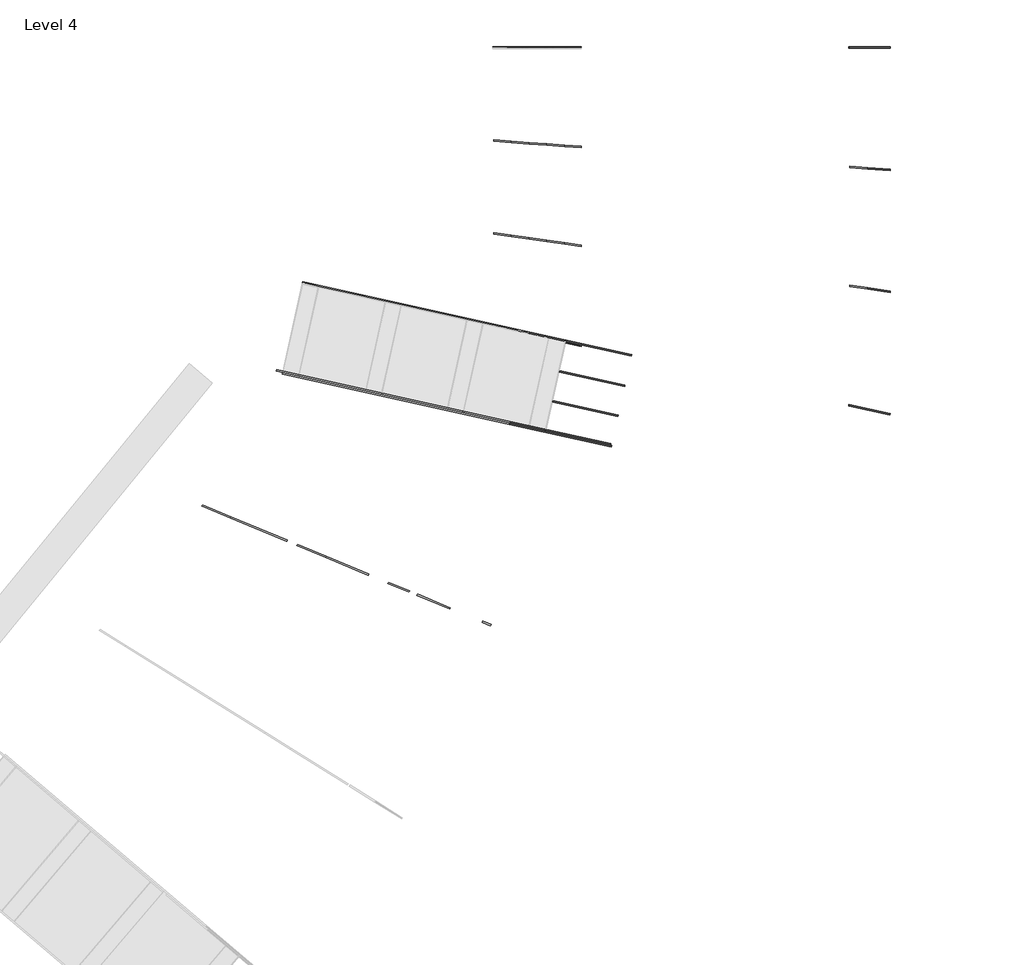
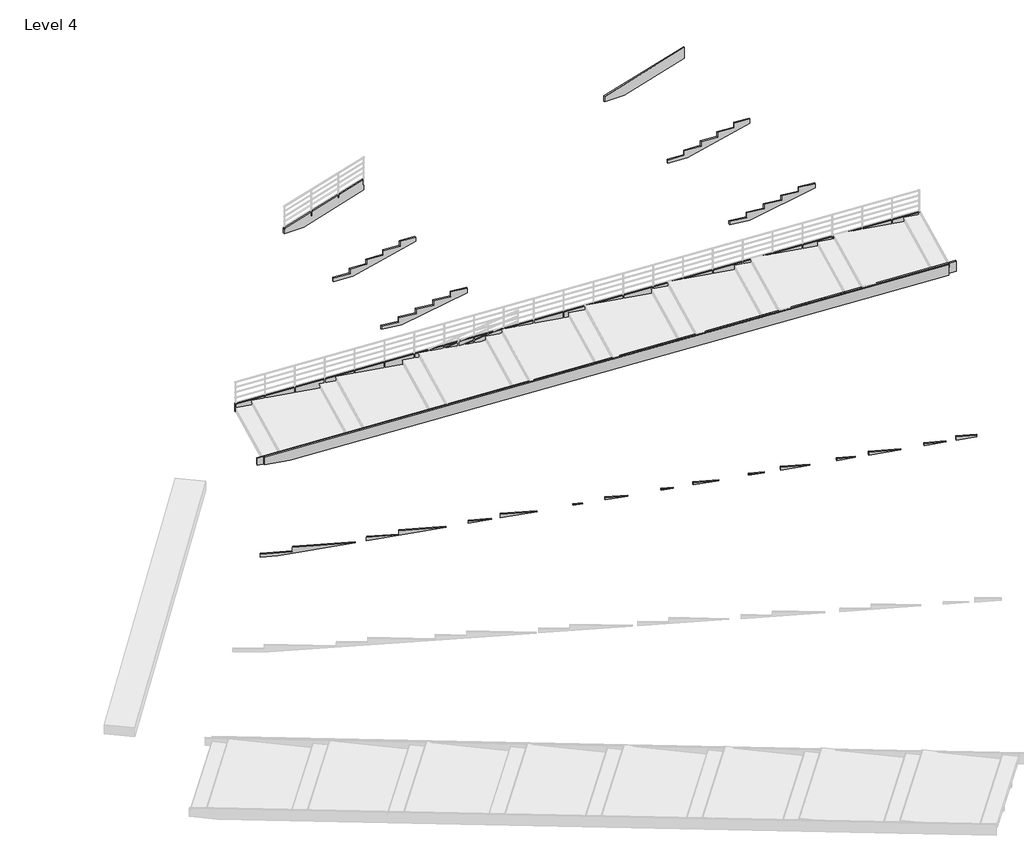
# One storey, part 2 of 2: 15 members.
"""IFC4 building model written with IfcOpenShell, lengths in millimetres."""

from ifc_helpers import new_model, si_unit, frame, origin, place, context, project, spatial, polyline, outline, extrude, faceted_brep, element, save

model = new_model("IFC4")

# Units and contexts
model_context = context("Model", 3, world=origin())
ifc_project = project(units=[si_unit("LENGTHUNIT", "METRE", prefix="MILLI")], contexts=[model_context])

# Site, building, storey
site = spatial("IfcSite", under=ifc_project)
building = spatial("IfcBuilding", under=site)
storey = spatial("IfcBuildingStorey", under=building, Name="Level 4", Elevation=3000.0)

# Members
placement = place(None, origin())
element("IfcMember", 1, ObjectType="Stringer - Miscellaneous - 50 mm Width", at=placement, inside=storey, context=model_context, shape_type="SweptSolid", body=[
    extrude(outline(polyline([(3199.3545501, 877319.9617053), (3000.0, 877319.9617053), (3000.0, 878038.0330119), (3677.6677256, 880262.0155652), (4095.8251383, 880262.0155652), (3199.3545501, 877319.9617053)])), frame((0.0, 83137.2219152, 0.0), z_axis=(0.0, 1.0, 0.0), x_axis=(0.0, 0.0, 1.0)), (0.0, 0.0, 1.0), 50.0),
])
element("IfcMember", 2, ObjectType="Stringer - Miscellaneous - 50 mm Width", at=placement, inside=storey, context=model_context, shape_type="SweptSolid", body=[
    extrude(outline(polyline([(118.9943577, -400.0), (62.2314549, -209.1912796), (765.4287617, 0.0), (3144.0066579, 0.0), (3263.0010156, -400.0), (118.9943577, -400.0)])), frame((877309.1394397, 73873.0759062, 2781.7484354), z_axis=(0.2164453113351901, 0.976294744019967, 0.0), x_axis=(0.9357657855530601, -0.20746000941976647, 0.2851363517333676)), (0.0, 0.0, 1.0), 50.0),
])
element("IfcMember", 3, ObjectType="Carriage - Miscellaneous - 50 mm Width", at=placement, inside=storey, context=model_context, shape_type="Brep", body=[
    faceted_brep([(877352.4617053, 77014.1358043, 3000.0), (878040.8652591, 76912.3893986, 3000.0), (878033.5546517, 76862.9267358, 3000.0), (877352.4617053, 76963.5926298, 3000.0), (880258.3602615, 76534.099302, 3677.9185184), (880265.670869, 76583.5619649, 3677.9185184), (880265.670869, 76583.5619649, 3846.4705882), (880258.3602615, 76534.099302, 3846.4705882), (877352.4617053, 77014.1358043, 3129.2941176), (877940.8724773, 76927.1683841, 3129.2941176), (877940.8724773, 76927.1683841, 3308.5882353), (878529.2832493, 76840.200964, 3308.5882353), (878529.2832493, 76840.200964, 3487.8823529), (879117.6940212, 76753.2335439, 3487.8823529), (879117.6940212, 76753.2335439, 3667.1764706), (879706.1047932, 76666.2661238, 3667.1764706), (879706.1047932, 76666.2661238, 3846.4705882), (879706.1047932, 76615.7229493, 3846.4705882), (879706.1047932, 76615.7229493, 3667.1764706), (879117.6940212, 76702.6903694, 3667.1764706), (879117.6940212, 76702.6903694, 3487.8823529), (878529.2832493, 76789.6577895, 3487.8823529), (878529.2832493, 76789.6577895, 3308.5882353), (877940.8724773, 76876.6252097, 3308.5882353), (877940.8724773, 76876.6252097, 3129.2941176), (877352.4617053, 76963.5926298, 3129.2941176)], [[[0, 1, 2, 3]], [[4, 5, 6, 7]], [[5, 4, 2, 1]], [[6, 5, 1, 0, 8, 9, 10, 11, 12, 13, 14, 15, 16]], [[16, 17, 7, 6]], [[4, 7, 17, 18, 19, 20, 21, 22, 23, 24, 25, 3, 2]], [[25, 8, 0, 3]], [[8, 25, 24, 9]], [[9, 24, 23, 10]], [[10, 23, 22, 11]], [[11, 22, 21, 12]], [[12, 21, 20, 13]], [[13, 20, 19, 14]], [[14, 19, 18, 15]], [[15, 18, 17, 16]]]),
])
element("IfcMember", 4, ObjectType="Carriage - Miscellaneous - 50 mm Width", at=placement, inside=storey, context=model_context, shape_type="Brep", body=[
    faceted_brep([(877352.4617053, 80088.1112388, 3000.0), (878039.6667746, 80037.3266043, 3000.0), (878035.9818101, 79987.4625788, 3000.0), (877352.4617053, 80037.9748934, 3000.0), (880260.173083, 79823.0942616, 3677.7313243), (880263.8580475, 79872.9582871, 3677.7313243), (880263.8580475, 79872.9582871, 3846.4705882), (880260.173083, 79823.0942616, 3846.4705882), (877352.4617053, 80088.1112388, 3129.2941176), (877940.8724773, 80044.6275287, 3129.2941176), (877940.8724773, 80044.6275287, 3308.5882353), (878529.2832493, 80001.1438187, 3308.5882353), (878529.2832493, 80001.1438187, 3487.8823529), (879117.6940212, 79957.6601086, 3487.8823529), (879117.6940212, 79957.6601086, 3667.1764706), (879706.1047932, 79914.1763985, 3667.1764706), (879706.1047932, 79914.1763985, 3846.4705882), (879706.1047932, 79864.0400532, 3846.4705882), (879706.1047932, 79864.0400532, 3667.1764706), (879117.6940212, 79907.5237633, 3667.1764706), (879117.6940212, 79907.5237633, 3487.8823529), (878529.2832493, 79951.0074733, 3487.8823529), (878529.2832493, 79951.0074733, 3308.5882353), (877940.8724773, 79994.4911834, 3308.5882353), (877940.8724773, 79994.4911834, 3129.2941176), (877352.4617053, 80037.9748934, 3129.2941176)], [[[0, 1, 2, 3]], [[4, 5, 6, 7]], [[5, 4, 2, 1]], [[6, 5, 1, 0, 8, 9, 10, 11, 12, 13, 14, 15, 16]], [[16, 17, 7, 6]], [[4, 7, 17, 18, 19, 20, 21, 22, 23, 24, 25, 3, 2]], [[25, 8, 0, 3]], [[8, 25, 24, 9]], [[9, 24, 23, 10]], [[10, 23, 22, 11]], [[11, 22, 21, 12]], [[12, 21, 20, 13]], [[13, 20, 19, 14]], [[14, 19, 18, 15]], [[15, 18, 17, 16]]]),
])
element("IfcMember", 5, ObjectType="Stringer - Miscellaneous - 50 mm Width", at=placement, inside=storey, context=model_context, shape_type="SweptSolid", body=[
    extrude(outline(polyline([(4199.3545501, 889144.9961928), (4000.0, 889144.9961928), (4000.0, 889863.0674994), (4677.6677256, 892087.0500527), (5095.8251383, 892087.0500527), (4199.3545501, 889144.9961928)])), frame((0.0, 83137.2219152, 0.0), z_axis=(0.0, 1.0, 0.0), x_axis=(0.0, 0.0, 1.0)), (0.0, 0.0, 1.0), 50.0),
])
element("IfcMember", 6, ObjectType="Stringer - Miscellaneous - 50 mm Width", at=placement, inside=storey, context=model_context, shape_type="SweptSolid", body=[
    extrude(outline(polyline([(118.9943577, -400.0), (62.2314549, -209.1912796), (765.4287617, 0.0), (3144.0066578, 0.0), (3263.0010155, -400.0), (118.9943577, -400.0)])), frame((889134.1739272, 71251.4564754, 3781.7484354), z_axis=(0.21644531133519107, 0.9762947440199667, 0.0), x_axis=(0.935765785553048, -0.20746000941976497, 0.28513635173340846)), (0.0, 0.0, 1.0), 50.0),
])
element("IfcMember", 7, ObjectType="Carriage - Miscellaneous - 50 mm Width", at=placement, inside=storey, context=model_context, shape_type="Brep", body=[
    faceted_brep([(889177.4961928, 75266.389517, 4000.0), (889865.8997466, 75164.6431114, 4000.0), (889858.5891391, 75115.1804485, 4000.0), (889177.4961928, 75215.8463425, 4000.0), (892083.394749, 74786.3530148, 4677.9185184), (892090.7053564, 74835.8156776, 4677.9185184), (892090.7053564, 74835.8156776, 4846.4705882), (892083.394749, 74786.3530148, 4846.4705882), (889177.4961928, 75266.389517, 4129.2941176), (889765.9069648, 75179.4220969, 4129.2941176), (889765.9069648, 75179.4220969, 4308.5882353), (890354.3177367, 75092.4546768, 4308.5882353), (890354.3177367, 75092.4546768, 4487.8823529), (890942.7285087, 75005.4872567, 4487.8823529), (890942.7285087, 75005.4872567, 4667.1764706), (891531.1392807, 74918.5198365, 4667.1764706), (891531.1392807, 74918.5198365, 4846.4705882), (891531.1392807, 74867.9766621, 4846.4705882), (891531.1392807, 74867.9766621, 4667.1764706), (890942.7285087, 74954.9440822, 4667.1764706), (890942.7285087, 74954.9440822, 4487.8823529), (890354.3177367, 75041.9115023, 4487.8823529), (890354.3177367, 75041.9115023, 4308.5882353), (889765.9069648, 75128.8789224, 4308.5882353), (889765.9069648, 75128.8789224, 4129.2941176), (889177.4961928, 75215.8463425, 4129.2941176)], [[[0, 1, 2, 3]], [[4, 5, 6, 7]], [[5, 4, 2, 1]], [[6, 5, 1, 0, 8, 9, 10, 11, 12, 13, 14, 15, 16]], [[16, 17, 7, 6]], [[4, 7, 17, 18, 19, 20, 21, 22, 23, 24, 25, 3, 2]], [[25, 8, 0, 3]], [[8, 25, 24, 9]], [[9, 24, 23, 10]], [[10, 23, 22, 11]], [[11, 22, 21, 12]], [[12, 21, 20, 13]], [[13, 20, 19, 14]], [[14, 19, 18, 15]], [[15, 18, 17, 16]]]),
])
element("IfcMember", 8, ObjectType="Carriage - Miscellaneous - 50 mm Width", at=placement, inside=storey, context=model_context, shape_type="Brep", body=[
    faceted_brep([(889177.4961928, 79214.2380951, 4000.0), (889864.7012621, 79163.4534606, 4000.0), (889861.0162976, 79113.5894352, 4000.0), (889177.4961928, 79164.1017498, 4000.0), (892085.2075704, 78949.221118, 4677.7313243), (892088.892535, 78999.0851434, 4677.7313243), (892088.892535, 78999.0851434, 4846.4705882), (892085.2075704, 78949.221118, 4846.4705882), (889177.4961928, 79214.2380951, 4129.2941176), (889765.9069648, 79170.7543851, 4129.2941176), (889765.9069648, 79170.7543851, 4308.5882353), (890354.3177367, 79127.270675, 4308.5882353), (890354.3177367, 79127.270675, 4487.8823529), (890942.7285087, 79083.786965, 4487.8823529), (890942.7285087, 79083.786965, 4667.1764706), (891531.1392807, 79040.3032549, 4667.1764706), (891531.1392807, 79040.3032549, 4846.4705882), (891531.1392807, 78990.1669096, 4846.4705882), (891531.1392807, 78990.1669096, 4667.1764706), (890942.7285087, 79033.6506196, 4667.1764706), (890942.7285087, 79033.6506196, 4487.8823529), (890354.3177367, 79077.1343297, 4487.8823529), (890354.3177367, 79077.1343297, 4308.5882353), (889765.9069648, 79120.6180398, 4308.5882353), (889765.9069648, 79120.6180398, 4129.2941176), (889177.4961928, 79164.1017498, 4129.2941176)], [[[0, 1, 2, 3]], [[4, 5, 6, 7]], [[5, 4, 2, 1]], [[6, 5, 1, 0, 8, 9, 10, 11, 12, 13, 14, 15, 16]], [[16, 17, 7, 6]], [[4, 7, 17, 18, 19, 20, 21, 22, 23, 24, 25, 3, 2]], [[25, 8, 0, 3]], [[8, 25, 24, 9]], [[9, 24, 23, 10]], [[10, 23, 22, 11]], [[11, 22, 21, 12]], [[12, 21, 20, 13]], [[13, 20, 19, 14]], [[14, 19, 18, 15]], [[15, 18, 17, 16]]]),
])
element("IfcMember", 9, ObjectType="Stringer - Miscellaneous - 50 mm Width", at=placement, inside=storey, context=model_context, shape_type="SweptSolid", body=[
    extrude(outline(polyline([(46.5162861, -400.0), (11.5737468, -99.5242546), (867.3966242, 0.0), (23075.0289311, 0.0), (23121.5452172, -400.0), (46.5162861, -400.0)])), frame((871001.9100742, 75322.607651, 2899.8050457), z_axis=(0.21644531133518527, 0.976294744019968, 0.0), x_axis=(0.9697594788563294, -0.2149964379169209, 0.11551227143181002)), (0.0, 0.0, 1.0), 50.0),
])
element("IfcMember", 10, ObjectType="Stringer - Miscellaneous - 50 mm Width", at=placement, inside=storey, context=model_context, shape_type="SweptSolid", body=[
    extrude(outline(polyline([(46.5162861, -400.0), (11.5737468, -99.5242546), (867.3966241, 0.0), (23075.028931, 0.0), (23121.5452171, -400.0), (46.5162861, -400.0)])), frame((870336.0002003, 72308.0961103, 2899.8050457), z_axis=(0.21644531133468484, 0.976294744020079, 0.0), x_axis=(0.9697594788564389, -0.21499643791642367, 0.11551227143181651)), (0.0, 0.0, 1.0), 50.0),
])
element("IfcMember", 11, ObjectType="Carriage - Miscellaneous - 50 mm Width", at=placement, inside=storey, context=model_context, shape_type="Brep", body=[
    faceted_brep([(870602.3068177, 73362.853534, 3000.0), (871411.7622329, 73183.3966328, 3000.0), (871400.9399674, 73134.5818956, 3000.0), (870591.5223637, 73314.0304139, 3000.0), (892937.0018999, 68360.0200551, 5565.2540509), (892947.8241655, 68408.8347923, 5565.2540509), (892947.8241655, 68408.8347923, 5828.6666667), (892937.0018999, 68360.0200551, 5828.6666667), (870602.3068177, 73362.853534, 3119.3333333), (871128.8974577, 73246.1079756, 3119.3333333), (871128.8974577, 73246.1079756, 3288.6666667), (873351.5253076, 72753.3496361, 3288.6666667), (873351.5253076, 72753.3496361, 3458.0), (873878.1159476, 72636.6040777, 3458.0), (873878.1159476, 72636.6040777, 3627.3333333), (876064.616157, 72151.8552645, 3627.3333333), (876064.616157, 72151.8552645, 3796.6666667), (876591.2067969, 72035.1097061, 3796.6666667), (876591.2067969, 72035.1097061, 3966.0), (878777.8085145, 71550.3383884, 3966.0), (878777.8085145, 71550.3383884, 4135.3333333), (879304.3991545, 71433.59283, 4135.3333333), (879304.3991545, 71433.59283, 4304.6666667), (881490.8832493, 70948.8475894, 4304.6666667), (881490.8832493, 70948.8475894, 4474.0), (882017.4738893, 70832.102031, 4474.0), (882017.4738893, 70832.102031, 4643.3333333), (884203.9579841, 70347.3567904, 4643.3333333), (884203.9579841, 70347.3567904, 4812.6666667), (884730.5486241, 70230.611232, 4812.6666667), (884730.5486241, 70230.611232, 4982.0), (886917.032719, 69745.8659914, 4982.0), (886917.032719, 69745.8659914, 5151.3333333), (887443.623359, 69629.120433, 5151.3333333), (887443.623359, 69629.120433, 5312.3203644), (887513.6930201, 69613.5859341, 5320.6666667), (889630.27342, 69144.3383975, 5320.6666667), (889630.27342, 69144.3383975, 5490.0), (890156.86406, 69027.5928391, 5490.0), (890156.86406, 69027.5928391, 5635.506271), (890356.8992535, 68983.2448797, 5659.3333333), (892452.9442084, 68518.5500673, 5659.3333333), (892452.9442084, 68518.5500673, 5828.6666667), (892442.1597544, 68469.7269473, 5828.6666667), (892442.1597544, 68469.7269473, 5659.3333333), (890346.0769879, 68934.4301425, 5659.3333333), (890146.0796059, 68978.7697191, 5635.5107749), (890146.0796059, 68978.7697191, 5490.0), (889619.488966, 69095.5152775, 5490.0), (889619.488966, 69095.5152775, 5320.6666667), (887502.8707545, 69564.7711969, 5320.6666667), (887432.8389049, 69580.2973129, 5312.3248683), (887432.8389049, 69580.2973129, 5151.3333333), (886906.2482649, 69697.0428713, 5151.3333333), (886906.2482649, 69697.0428713, 4982.0), (884719.7641701, 70181.788112, 4982.0), (884719.7641701, 70181.788112, 4812.6666667), (884193.1735301, 70298.5336703, 4812.6666667), (884193.1735301, 70298.5336703, 4643.3333333), (882006.6894352, 70783.278911, 4643.3333333), (882006.6894352, 70783.278911, 4474.0), (881480.0987952, 70900.0244693, 4474.0), (881480.0987952, 70900.0244693, 4304.6666667), (879293.6147004, 71384.76971, 4304.6666667), (879293.6147004, 71384.76971, 4135.3333333), (878767.0240604, 71501.5152684, 4135.3333333), (878767.0240604, 71501.5152684, 3966.0), (876580.4223429, 71986.2865861, 3966.0), (876580.4223429, 71986.2865861, 3796.6666667), (876053.8317029, 72103.0321444, 3796.6666667), (876053.8317029, 72103.0321444, 3627.3333333), (873867.3314935, 72587.7809577, 3627.3333333), (873867.3314935, 72587.7809577, 3458.0), (873340.7408536, 72704.526516, 3458.0), (873340.7408535, 72704.526516, 3288.6666667), (871118.1130036, 73197.2848556, 3288.6666667), (871118.1130036, 73197.2848556, 3119.3333333), (870591.5223637, 73314.0304139, 3119.3333333)], [[[0, 1, 2, 3]], [[4, 5, 6, 7]], [[5, 4, 2, 1]], [[6, 5, 1, 0, 8, 9, 10, 11, 12, 13, 14, 15, 16, 17, 18, 19, 20, 21, 22, 23, 24, 25, 26, 27, 28, 29, 30, 31, 32, 33, 34, 35, 36, 37, 38, 39, 40, 41, 42]], [[42, 43, 7, 6]], [[4, 7, 43, 44, 45, 46, 47, 48, 49, 50, 51, 52, 53, 54, 55, 56, 57, 58, 59, 60, 61, 62, 63, 64, 65, 66, 67, 68, 69, 70, 71, 72, 73, 74, 75, 76, 77, 3, 2]], [[51, 50, 35, 34]], [[46, 45, 40, 39]], [[49, 36, 35, 50]], [[33, 52, 51, 34]], [[44, 41, 40, 45]], [[38, 47, 46, 39]], [[77, 8, 0, 3]], [[8, 77, 76, 9]], [[9, 76, 75, 10]], [[10, 75, 74, 11]], [[11, 74, 73, 12]], [[12, 73, 72, 13]], [[13, 72, 71, 14]], [[14, 71, 70, 15]], [[15, 70, 69, 16]], [[16, 69, 68, 17]], [[17, 68, 67, 18]], [[18, 67, 66, 19]], [[19, 66, 65, 20]], [[20, 65, 64, 21]], [[21, 64, 63, 22]], [[22, 63, 62, 23]], [[23, 62, 61, 24]], [[24, 61, 60, 25]], [[25, 60, 59, 26]], [[26, 59, 58, 27]], [[27, 58, 57, 28]], [[28, 57, 56, 29]], [[29, 56, 55, 30]], [[30, 55, 54, 31]], [[31, 54, 53, 32]], [[32, 53, 52, 33]], [[36, 49, 48, 37]], [[37, 48, 47, 38]], [[41, 44, 43, 42]]]),
])
element("IfcMember", 12, ObjectType="Carriage - Miscellaneous - 50 mm Width", at=placement, inside=storey, context=model_context, shape_type="Brep", body=[
    faceted_brep([(870820.6693538, 74351.4191351, 3000.0), (871630.1247691, 74171.962234, 3000.0), (871619.3025035, 74123.1474968, 3000.0), (870809.8848998, 74302.5960151, 3000.0), (893155.364436, 69348.5856562, 5565.2540509), (893166.1867016, 69397.4003934, 5565.2540509), (893166.1867016, 69397.4003934, 5828.6666667), (893155.364436, 69348.5856562, 5828.6666667), (870820.6693538, 74351.4191351, 3119.3333333), (871347.2599938, 74234.6735768, 3119.3333333), (871347.2599938, 74234.6735768, 3288.6666667), (873569.8878437, 73741.9152372, 3288.6666667), (873569.8878437, 73741.9152372, 3458.0), (874096.4784837, 73625.1696789, 3458.0), (874096.4784837, 73625.1696789, 3627.3333333), (876282.9786931, 73140.4208656, 3627.3333333), (876282.9786931, 73140.4208656, 3796.6666667), (876809.5693331, 73023.6753072, 3796.6666667), (876809.5693331, 73023.6753072, 3966.0), (878996.1710506, 72538.9039895, 3966.0), (878996.1710506, 72538.9039895, 4135.3333333), (879522.7616906, 72422.1584312, 4135.3333333), (879522.7616906, 72422.1584312, 4304.6666667), (881709.2457854, 71937.4131905, 4304.6666667), (881709.2457854, 71937.4131905, 4474.0), (882235.8364254, 71820.6676322, 4474.0), (882235.8364254, 71820.6676322, 4643.3333333), (884422.3205203, 71335.9223915, 4643.3333333), (884422.3205203, 71335.9223915, 4812.6666667), (884948.9111602, 71219.1768332, 4812.6666667), (884948.9111602, 71219.1768332, 4982.0), (887135.3952551, 70734.4315925, 4982.0), (887135.3952551, 70734.4315925, 5151.3333333), (887661.9858951, 70617.6860341, 5151.3333333), (887661.9858951, 70617.6860341, 5312.3203644), (887732.0555562, 70602.1515353, 5320.6666667), (889848.6359561, 70132.9039986, 5320.6666667), (889848.6359561, 70132.9039986, 5490.0), (890375.2265961, 70016.1584403, 5490.0), (890375.2265961, 70016.1584403, 5635.506271), (890575.2617896, 69971.8104808, 5659.3333333), (892671.3067446, 69507.1156685, 5659.3333333), (892671.3067446, 69507.1156685, 5828.6666667), (892660.5222905, 69458.2925485, 5828.6666667), (892660.5222905, 69458.2925485, 5659.3333333), (890564.439524, 69922.9957436, 5659.3333333), (890364.4421421, 69967.3353202, 5635.5107749), (890364.4421421, 69967.3353202, 5490.0), (889837.8515021, 70084.0808786, 5490.0), (889837.8515021, 70084.0808786, 5320.6666667), (887721.2332906, 70553.3367981, 5320.6666667), (887651.201441, 70568.8629141, 5312.3248683), (887651.201441, 70568.8629141, 5151.3333333), (887124.610801, 70685.6084725, 5151.3333333), (887124.610801, 70685.6084725, 4982.0), (884938.1267062, 71170.3537131, 4982.0), (884938.1267062, 71170.3537131, 4812.6666667), (884411.5360662, 71287.0992715, 4812.6666667), (884411.5360662, 71287.0992715, 4643.3333333), (882225.0519714, 71771.8445121, 4643.3333333), (882225.0519714, 71771.8445121, 4474.0), (881698.4613314, 71888.5900705, 4474.0), (881698.4613314, 71888.5900705, 4304.6666667), (879511.9772365, 72373.3353111, 4304.6666667), (879511.9772365, 72373.3353111, 4135.3333333), (878985.3865965, 72490.0808695, 4135.3333333), (878985.3865965, 72490.0808695, 3966.0), (876798.784879, 72974.8521872, 3966.0), (876798.784879, 72974.8521872, 3796.6666667), (876272.194239, 73091.5977456, 3796.6666667), (876272.194239, 73091.5977456, 3627.3333333), (874085.6940297, 73576.3465588, 3627.3333333), (874085.6940297, 73576.3465588, 3458.0), (873559.1033897, 73693.0921172, 3458.0), (873559.1033897, 73693.0921172, 3288.6666667), (871336.4755398, 74185.8504567, 3288.6666667), (871336.4755398, 74185.8504567, 3119.3333333), (870809.8848998, 74302.5960151, 3119.3333333)], [[[0, 1, 2, 3]], [[4, 5, 6, 7]], [[5, 4, 2, 1]], [[6, 5, 1, 0, 8, 9, 10, 11, 12, 13, 14, 15, 16, 17, 18, 19, 20, 21, 22, 23, 24, 25, 26, 27, 28, 29, 30, 31, 32, 33, 34, 35, 36, 37, 38, 39, 40, 41, 42]], [[42, 43, 7, 6]], [[4, 7, 43, 44, 45, 46, 47, 48, 49, 50, 51, 52, 53, 54, 55, 56, 57, 58, 59, 60, 61, 62, 63, 64, 65, 66, 67, 68, 69, 70, 71, 72, 73, 74, 75, 76, 77, 3, 2]], [[51, 50, 35, 34]], [[46, 45, 40, 39]], [[49, 36, 35, 50]], [[33, 52, 51, 34]], [[44, 41, 40, 45]], [[38, 47, 46, 39]], [[77, 8, 0, 3]], [[8, 77, 76, 9]], [[9, 76, 75, 10]], [[10, 75, 74, 11]], [[11, 74, 73, 12]], [[12, 73, 72, 13]], [[13, 72, 71, 14]], [[14, 71, 70, 15]], [[15, 70, 69, 16]], [[16, 69, 68, 17]], [[17, 68, 67, 18]], [[18, 67, 66, 19]], [[19, 66, 65, 20]], [[20, 65, 64, 21]], [[21, 64, 63, 22]], [[22, 63, 62, 23]], [[23, 62, 61, 24]], [[24, 61, 60, 25]], [[25, 60, 59, 26]], [[26, 59, 58, 27]], [[27, 58, 57, 28]], [[28, 57, 56, 29]], [[29, 56, 55, 30]], [[30, 55, 54, 31]], [[31, 54, 53, 32]], [[32, 53, 52, 33]], [[36, 49, 48, 37]], [[37, 48, 47, 38]], [[41, 44, 43, 42]]]),
])
element("IfcMember", 13, ObjectType="Stringer - Miscellaneous - 50 mm Width", at=placement, inside=storey, context=model_context, shape_type="SweptSolid", body=[
    extrude(outline(polyline([(47.2000902, -400.0), (16.4392143, -139.3151089), (1197.0734734, 0.0), (23568.8619552, 0.0), (23616.0620455, -400.0), (47.2000902, -400.0)])), frame((870140.4641772, 72402.6606422, 2859.7183286), z_axis=(0.21644531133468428, 0.976294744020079, 0.0), x_axis=(0.969567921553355, -0.21495396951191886, 0.11718718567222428)), (0.0, 0.0, 1.0), 50.0),
])
element("IfcMember", 14, ObjectType="Carriage - Miscellaneous - 50 mm Width", at=placement, inside=storey, context=model_context, shape_type="Brep", body=[
    faceted_brep([(867687.2614692, 67965.7725962, 3000.0), (868197.1572145, 67753.8401652, 3000.0), (868177.9668916, 67707.6694872, 3000.0), (867654.1396886, 67925.3923718, 3000.0), (870501.9265926, 66795.8886985, 3288.6666667), (870482.7362697, 66749.7180205, 3288.6666667), (867687.2614692, 67965.7725962, 3119.3333333), (868643.0463594, 67568.5113578, 3119.3333333), (868643.0463594, 67568.5113578, 3288.6666667), (868609.9245788, 67528.1311334, 3288.6666667), (868609.9245788, 67528.1311334, 3119.3333333), (867654.1396886, 67925.3923718, 3119.3333333)], [[[0, 1, 2, 3]], [[1, 4, 5, 2]], [[4, 1, 0, 6, 7, 8]], [[2, 5, 9, 10, 11, 3]], [[11, 6, 0, 3]], [[6, 11, 10, 7]], [[7, 10, 9, 8]], [[8, 9, 5, 4]]]),
    faceted_brep([(888973.7709225, 59064.1274644, 5604.6230427), (888992.9612454, 59110.2981424, 5604.6230427), (888992.9612454, 59110.2981424, 5659.3333333), (888973.7709225, 59064.1274644, 5659.3333333), (888362.4777177, 59318.2046089, 5528.0600801), (888373.0665915, 59367.9503824, 5526.9827698), (888373.0665915, 59367.9503824, 5659.3333333), (888362.4777177, 59318.2046089, 5659.3333333)], [[[0, 1, 2, 3]], [[1, 0, 4, 5]], [[2, 1, 5, 6]], [[6, 7, 3, 2]], [[0, 3, 7, 4]], [[7, 6, 5, 4]]]),
    faceted_brep([(870848.9385139, 66651.6570968, 3332.1290519), (873205.9054473, 65672.0103034, 3627.3333333), (873186.7151243, 65625.8396254, 3627.3333333), (870815.8167333, 66611.2768725, 3330.3841713), (870848.9385139, 66651.6570968, 3458.0), (871804.7234041, 66254.3958584, 3458.0), (871804.7234041, 66254.3958584, 3627.3333333), (871771.6016235, 66214.0156341, 3627.3333333), (871771.6016235, 66214.0156341, 3458.0), (870815.8167333, 66611.2768725, 3458.0)], [[[0, 1, 2, 3]], [[1, 0, 4, 5, 6]], [[3, 2, 7, 8, 9]], [[9, 4, 0, 3]], [[4, 9, 8, 5]], [[5, 8, 7, 6]], [[6, 7, 2, 1]]]),
    faceted_brep([(873872.8391399, 65394.8068161, 3710.8651295), (874557.8948746, 65110.0711059, 3796.6666667), (874538.7045517, 65063.9004279, 3796.6666667), (873839.7173594, 65354.4265918, 3709.1202489), (873872.8391399, 65394.8068161, 3796.6666667), (873839.7173594, 65354.4265918, 3796.6666667)], [[[0, 1, 2, 3]], [[1, 0, 4]], [[3, 2, 5]], [[5, 4, 0, 3]], [[4, 5, 2, 1]]]),
    faceted_brep([(874828.6240301, 64997.5455777, 3830.5748241), (875909.8843019, 64548.1319083, 3966.0), (875890.693979, 64501.9612303, 3966.0), (874795.5022495, 64957.1653534, 3828.8299435), (874828.6240301, 64997.5455777, 3966.0), (874795.5022495, 64957.1653534, 3966.0)], [[[0, 1, 2, 3]], [[1, 0, 4]], [[3, 2, 5]], [[5, 4, 0, 3]], [[4, 5, 2, 1]]]),
    faceted_brep([(876983.1302888, 64102.0492863, 4100.4214065), (877261.8737293, 63986.1927108, 4135.3333333), (877242.6834063, 63940.0220328, 4135.3333333), (876972.541415, 64052.3035128, 4101.4987168), (876983.1302888, 64102.0492863, 4135.3333333), (876972.541415, 64052.3035128, 4135.3333333)], [[[0, 1, 2, 3]], [[1, 0, 4]], [[3, 2, 5]], [[5, 4, 0, 3]], [[4, 5, 2, 1]]]),
    faceted_brep([(877932.2916474, 63707.5410443, 4219.3015201), (878613.8631566, 63424.2535132, 4304.6666667), (878594.6728336, 63378.0828353, 4304.6666667), (877921.7027735, 63657.7952708, 4220.3788304), (877932.2916474, 63707.5410443, 4304.6666667), (877921.7027735, 63657.7952708, 4304.6666667)], [[[0, 1, 2, 3]], [[1, 0, 4]], [[3, 2, 5]], [[5, 4, 0, 3]], [[4, 5, 2, 1]]]),
    faceted_brep([(879593.3240249, 63017.1516209, 4427.341719), (879965.8525839, 62862.3143157, 4474.0), (879946.662261, 62816.1436377, 4474.0), (879582.735151, 62967.4058473, 4428.4190292), (879593.3240249, 63017.1516209, 4474.0), (879582.735151, 62967.4058473, 4474.0)], [[[0, 1, 2, 3]], [[1, 0, 4]], [[3, 2, 5]], [[5, 4, 0, 3]], [[4, 5, 2, 1]]]),
    faceted_brep([(880542.4853834, 62622.6433789, 4546.2218326), (881317.8420113, 62300.3751181, 4643.3333333), (881298.6516883, 62254.2044402, 4643.3333333), (880531.8965096, 62572.8976053, 4547.2991428), (880542.4853834, 62622.6433789, 4643.3333333), (880531.8965096, 62572.8976053, 4643.3333333)], [[[0, 1, 2, 3]], [[1, 0, 4]], [[3, 2, 5]], [[5, 4, 0, 3]], [[4, 5, 2, 1]]]),
    faceted_brep([(882203.5177609, 61932.2539554, 4754.2620314), (882669.8314386, 61738.4359206, 4812.6666667), (882650.6411156, 61692.2652426, 4812.6666667), (882192.928887, 61882.5081818, 4755.3393416), (882203.5177609, 61932.2539554, 4812.6666667), (882192.928887, 61882.5081818, 4812.6666667)], [[[0, 1, 2, 3]], [[1, 0, 4]], [[3, 2, 5]], [[5, 4, 0, 3]], [[4, 5, 2, 1]]]),
    faceted_brep([(883152.6791194, 61537.7457134, 4873.142145), (884021.8208659, 61176.496723, 4982.0), (884002.630543, 61130.3260451, 4982.0), (883142.0902456, 61487.9999398, 4874.2194552), (883152.6791194, 61537.7457134, 4982.0), (883142.0902456, 61487.9999398, 4982.0)], [[[0, 1, 2, 3]], [[1, 0, 4]], [[3, 2, 5]], [[5, 4, 0, 3]], [[4, 5, 2, 1]]]),
    faceted_brep([(884813.7114969, 60847.3562899, 5081.1823438), (885373.8102933, 60614.5575255, 5151.3333333), (885354.6199703, 60568.3868475, 5151.3333333), (884803.1226231, 60797.6105163, 5082.259654), (884813.7114969, 60847.3562899, 5151.3333333), (884803.1226231, 60797.6105163, 5151.3333333)], [[[0, 1, 2, 3]], [[1, 0, 4]], [[3, 2, 5]], [[5, 4, 0, 3]], [[4, 5, 2, 1]]]),
    faceted_brep([(885762.8728555, 60452.8480479, 5200.0624574), (886725.7997206, 60052.6183279, 5320.6666667), (886706.6093976, 60006.44765, 5320.6666667), (885752.2839816, 60403.1022743, 5201.1397676), (885762.8728555, 60452.8480479, 5320.6666667), (885752.2839816, 60403.1022743, 5320.6666667)], [[[0, 1, 2, 3]], [[1, 0, 4]], [[3, 2, 5]], [[5, 4, 0, 3]], [[4, 5, 2, 1]]]),
    faceted_brep([(887423.905233, 59762.4586244, 5408.1026562), (888077.7891479, 59490.6791304, 5490.0), (888058.598825, 59444.5084524, 5490.0), (887413.3163591, 59712.7128509, 5409.1799664), (887423.905233, 59762.4586244, 5490.0), (887413.3163591, 59712.7128509, 5490.0)], [[[0, 1, 2, 3]], [[1, 0, 4]], [[3, 2, 5]], [[5, 4, 0, 3]], [[4, 5, 2, 1]]]),
])
element("IfcMember", 15, ObjectType="Carriage - Miscellaneous - 50 mm Width", at=placement, inside=storey, context=model_context, shape_type="Brep", body=[
    faceted_brep([(867687.2614692, 67965.7725962, 3000.0), (868197.1572145, 67753.8401652, 3000.0), (868177.9668916, 67707.6694872, 3000.0), (867654.1396886, 67925.3923718, 3000.0), (870501.9265926, 66795.8886985, 3288.6666667), (870482.7362697, 66749.7180205, 3288.6666667), (867687.2614692, 67965.7725962, 3119.3333333), (868643.0463594, 67568.5113578, 3119.3333333), (868643.0463594, 67568.5113578, 3288.6666667), (868609.9245788, 67528.1311334, 3288.6666667), (868609.9245788, 67528.1311334, 3119.3333333), (867654.1396886, 67925.3923718, 3119.3333333)], [[[0, 1, 2, 3]], [[1, 4, 5, 2]], [[4, 1, 0, 6, 7, 8]], [[2, 5, 9, 10, 11, 3]], [[11, 6, 0, 3]], [[6, 11, 10, 7]], [[7, 10, 9, 8]], [[8, 9, 5, 4]]]),
    faceted_brep([(888973.7709225, 59064.1274644, 5604.6230427), (888992.9612454, 59110.2981424, 5604.6230427), (888992.9612454, 59110.2981424, 5659.3333333), (888973.7709225, 59064.1274644, 5659.3333333), (888362.4777177, 59318.2046089, 5528.0600801), (888373.0665915, 59367.9503824, 5526.9827698), (888373.0665915, 59367.9503824, 5659.3333333), (888362.4777177, 59318.2046089, 5659.3333333)], [[[0, 1, 2, 3]], [[1, 0, 4, 5]], [[2, 1, 5, 6]], [[6, 7, 3, 2]], [[0, 3, 7, 4]], [[7, 6, 5, 4]]]),
    faceted_brep([(870848.9385139, 66651.6570968, 3332.1290519), (873205.9054473, 65672.0103034, 3627.3333333), (873186.7151243, 65625.8396254, 3627.3333333), (870815.8167333, 66611.2768725, 3330.3841713), (870848.9385139, 66651.6570968, 3458.0), (871804.7234041, 66254.3958584, 3458.0), (871804.7234041, 66254.3958584, 3627.3333333), (871771.6016235, 66214.0156341, 3627.3333333), (871771.6016235, 66214.0156341, 3458.0), (870815.8167333, 66611.2768725, 3458.0)], [[[0, 1, 2, 3]], [[1, 0, 4, 5, 6]], [[3, 2, 7, 8, 9]], [[9, 4, 0, 3]], [[4, 9, 8, 5]], [[5, 8, 7, 6]], [[6, 7, 2, 1]]]),
    faceted_brep([(873872.8391399, 65394.8068161, 3710.8651295), (874557.8948746, 65110.0711059, 3796.6666667), (874538.7045517, 65063.9004279, 3796.6666667), (873839.7173594, 65354.4265918, 3709.1202489), (873872.8391399, 65394.8068161, 3796.6666667), (873839.7173594, 65354.4265918, 3796.6666667)], [[[0, 1, 2, 3]], [[1, 0, 4]], [[3, 2, 5]], [[5, 4, 0, 3]], [[4, 5, 2, 1]]]),
    faceted_brep([(874828.6240301, 64997.5455777, 3830.5748241), (875909.8843019, 64548.1319083, 3966.0), (875890.693979, 64501.9612303, 3966.0), (874795.5022495, 64957.1653534, 3828.8299435), (874828.6240301, 64997.5455777, 3966.0), (874795.5022495, 64957.1653534, 3966.0)], [[[0, 1, 2, 3]], [[1, 0, 4]], [[3, 2, 5]], [[5, 4, 0, 3]], [[4, 5, 2, 1]]]),
    faceted_brep([(876983.1302888, 64102.0492863, 4100.4214065), (877261.8737293, 63986.1927108, 4135.3333333), (877242.6834063, 63940.0220328, 4135.3333333), (876972.541415, 64052.3035128, 4101.4987168), (876983.1302888, 64102.0492863, 4135.3333333), (876972.541415, 64052.3035128, 4135.3333333)], [[[0, 1, 2, 3]], [[1, 0, 4]], [[3, 2, 5]], [[5, 4, 0, 3]], [[4, 5, 2, 1]]]),
    faceted_brep([(877932.2916474, 63707.5410443, 4219.3015201), (878613.8631566, 63424.2535132, 4304.6666667), (878594.6728336, 63378.0828353, 4304.6666667), (877921.7027735, 63657.7952708, 4220.3788304), (877932.2916474, 63707.5410443, 4304.6666667), (877921.7027735, 63657.7952708, 4304.6666667)], [[[0, 1, 2, 3]], [[1, 0, 4]], [[3, 2, 5]], [[5, 4, 0, 3]], [[4, 5, 2, 1]]]),
    faceted_brep([(879593.3240249, 63017.1516209, 4427.341719), (879965.8525839, 62862.3143157, 4474.0), (879946.662261, 62816.1436377, 4474.0), (879582.735151, 62967.4058473, 4428.4190292), (879593.3240249, 63017.1516209, 4474.0), (879582.735151, 62967.4058473, 4474.0)], [[[0, 1, 2, 3]], [[1, 0, 4]], [[3, 2, 5]], [[5, 4, 0, 3]], [[4, 5, 2, 1]]]),
    faceted_brep([(880542.4853834, 62622.6433789, 4546.2218326), (881317.8420113, 62300.3751181, 4643.3333333), (881298.6516883, 62254.2044402, 4643.3333333), (880531.8965096, 62572.8976053, 4547.2991428), (880542.4853834, 62622.6433789, 4643.3333333), (880531.8965096, 62572.8976053, 4643.3333333)], [[[0, 1, 2, 3]], [[1, 0, 4]], [[3, 2, 5]], [[5, 4, 0, 3]], [[4, 5, 2, 1]]]),
    faceted_brep([(882203.5177609, 61932.2539554, 4754.2620314), (882669.8314386, 61738.4359206, 4812.6666667), (882650.6411156, 61692.2652426, 4812.6666667), (882192.928887, 61882.5081818, 4755.3393416), (882203.5177609, 61932.2539554, 4812.6666667), (882192.928887, 61882.5081818, 4812.6666667)], [[[0, 1, 2, 3]], [[1, 0, 4]], [[3, 2, 5]], [[5, 4, 0, 3]], [[4, 5, 2, 1]]]),
    faceted_brep([(883152.6791194, 61537.7457134, 4873.142145), (884021.8208659, 61176.496723, 4982.0), (884002.630543, 61130.3260451, 4982.0), (883142.0902456, 61487.9999398, 4874.2194552), (883152.6791194, 61537.7457134, 4982.0), (883142.0902456, 61487.9999398, 4982.0)], [[[0, 1, 2, 3]], [[1, 0, 4]], [[3, 2, 5]], [[5, 4, 0, 3]], [[4, 5, 2, 1]]]),
    faceted_brep([(884813.7114969, 60847.3562899, 5081.1823438), (885373.8102933, 60614.5575255, 5151.3333333), (885354.6199703, 60568.3868475, 5151.3333333), (884803.1226231, 60797.6105163, 5082.259654), (884813.7114969, 60847.3562899, 5151.3333333), (884803.1226231, 60797.6105163, 5151.3333333)], [[[0, 1, 2, 3]], [[1, 0, 4]], [[3, 2, 5]], [[5, 4, 0, 3]], [[4, 5, 2, 1]]]),
    faceted_brep([(885762.8728555, 60452.8480479, 5200.0624574), (886725.7997206, 60052.6183279, 5320.6666667), (886706.6093976, 60006.44765, 5320.6666667), (885752.2839816, 60403.1022743, 5201.1397676), (885762.8728555, 60452.8480479, 5320.6666667), (885752.2839816, 60403.1022743, 5320.6666667)], [[[0, 1, 2, 3]], [[1, 0, 4]], [[3, 2, 5]], [[5, 4, 0, 3]], [[4, 5, 2, 1]]]),
    faceted_brep([(887423.905233, 59762.4586244, 5408.1026562), (888077.7891479, 59490.6791304, 5490.0), (888058.598825, 59444.5084524, 5490.0), (887413.3163591, 59712.7128509, 5409.1799664), (887423.905233, 59762.4586244, 5490.0), (887413.3163591, 59712.7128509, 5490.0)], [[[0, 1, 2, 3]], [[1, 0, 4]], [[3, 2, 5]], [[5, 4, 0, 3]], [[4, 5, 2, 1]]]),
])

save(model, "model.ifc")
